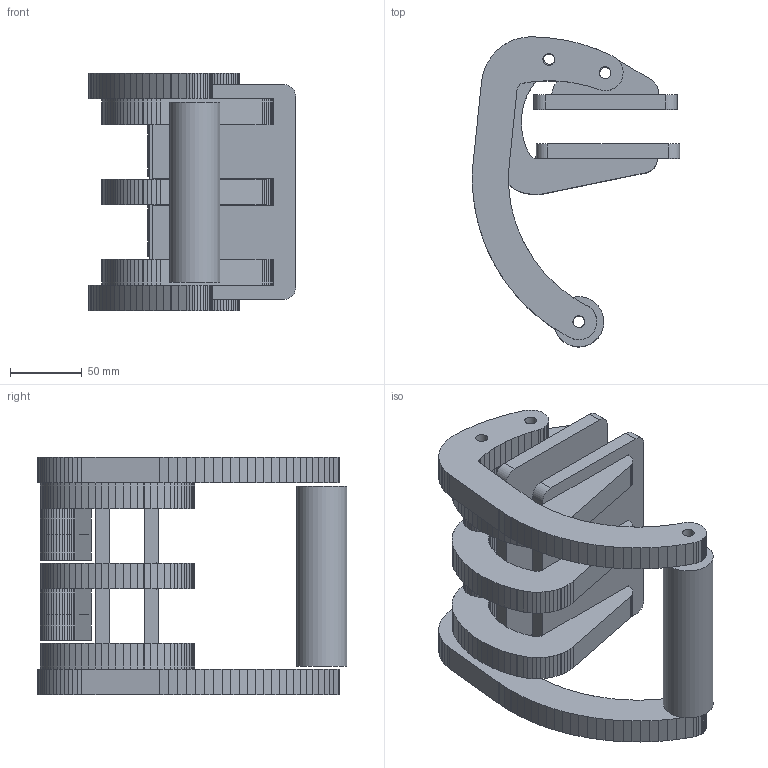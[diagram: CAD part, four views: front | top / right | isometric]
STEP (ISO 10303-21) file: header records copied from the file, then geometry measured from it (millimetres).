
FILE_DESCRIPTION(('FreeCAD Model'),'2;1');
FILE_NAME('Open CASCADE Shape Model','2026-05-20T21:59:29',('Author'),( ''),'Open CASCADE STEP processor 7.8','FreeCAD','Unknown');
FILE_SCHEMA(('AUTOMOTIVE_DESIGN { 1 0 10303 214 1 1 1 1 }'));
Length unit declared in the file: millimetre
Products named in the file (1): PlyWood Gripper v10
Bounding box: 144.71 x 216.36 x 166 mm (x, y, z)
Volume: 1092299.9 mm3; surface area: 224301.2 mm2
Topology: 9 solids, 9 shells, 1702 faces, 15111 edges, 43564 vertices
Faces by surface type: plane 1672, cylinder 30
Full cylindrical faces by diameter (mm): 8.25 x21, 35 x1
Entity records: 252491 total; most frequent: CARTESIAN_POINT 70720, DIRECTION 28741, LINE 24945, VECTOR 24945, GEOMETRIC_CURVE_SET 10075, ORIENTED_EDGE 10074, PCURVE 10074, DEFINITIONAL_REPRESENTATION 10074
